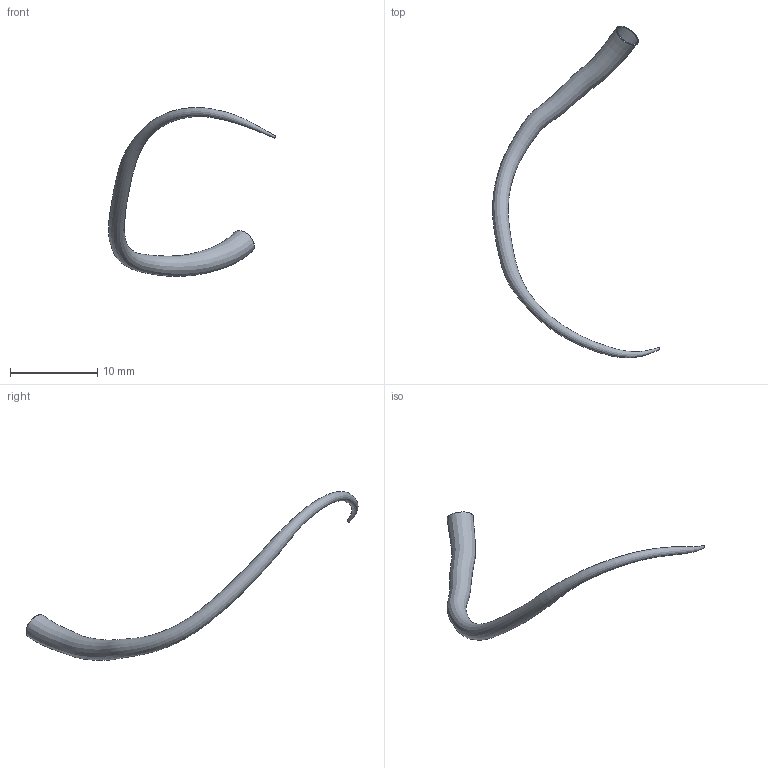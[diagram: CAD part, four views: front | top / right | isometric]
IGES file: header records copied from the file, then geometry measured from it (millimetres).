
Global section: file name: C:\Documents and Settings\Administrator\Desktop\FDA-Pig\Domestic LCA\Pig_000003\lcx.seg.es.igs; native system: Rhinoceros ( May 19 2006 ); preprocessor: Trout Lake IGES 012 May 19 2006; date: 111205.182926; units: centimetre
Bounding box: 19.13 x 38.05 x 19.36 mm (x, y, z)
Surface area: 629.6 mm2 (no closed solid volume)
Topology: 0 solids, 0 shells, 4 faces, 12 edges, 8 vertices
Faces by surface type: bspline 4
